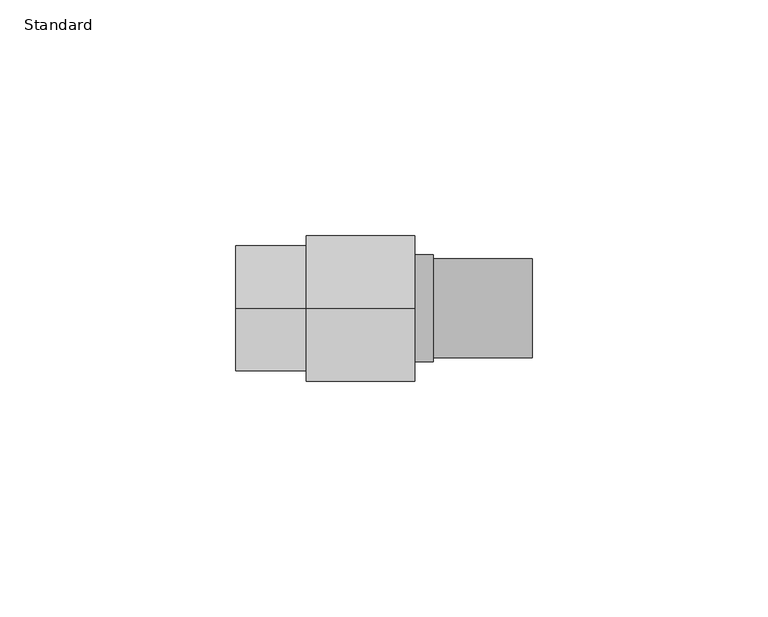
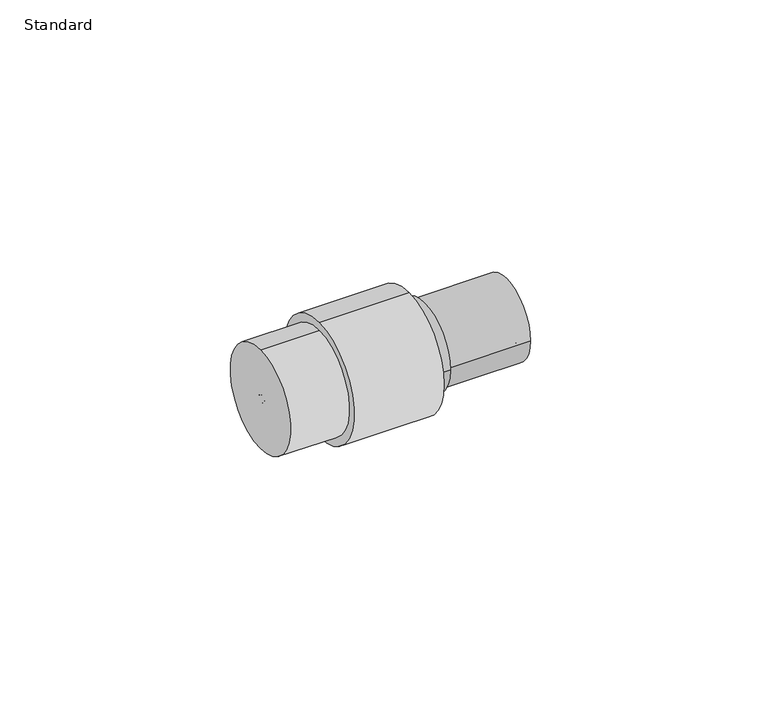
"""IFC4 building model written with IfcOpenShell, lengths in millimetres: pipe fitting geometry, Z_PIF_Tigris_Transition_M-K_MMT_Wavin_(nested) : Standard."""

from ifc_helpers import new_model, si_unit, point, frame, origin, origin_2d, place, context, project, spatial, circle_curve, ellipse_curve, trimmed, segment, composite_curve, outline, extrude, source, transform, mapped, element, save
from ifc_brep_helpers import plane_surface, revolved_surface, advanced_brep


def standard_a49c3ffd(model_context):
    return source(origin(), model_context, "Body", "SolidModel", [
        extrude(outline(composite_curve([segment(trimmed(circle_curve(origin_2d(), 13.35), [point((0.0, -13.35))], [point((0.0, 13.35))], False, "CARTESIAN"), True, "CONTINUOUS"), segment(trimmed(circle_curve(origin_2d(), 13.35), [point((0.0, 13.35))], [point((0.0, -13.35))], False, "CARTESIAN"), True, "CONTINUOUS")], self_intersect=False)), frame((-19.0, 0.0, 0.0), z_axis=(1.0, 0.0, 0.0), x_axis=(0.0, 1.0, 0.0)), (0.0, 0.0, 1.0), 15.0),
        extrude(outline(composite_curve([segment(trimmed(circle_curve(origin_2d(), 15.5), [point((0.0, -15.5))], [point((0.0, 15.5))], False, "CARTESIAN"), True, "CONTINUOUS"), segment(trimmed(circle_curve(origin_2d(), 15.5), [point((0.0, 15.5))], [point((0.0, -15.5))], False, "CARTESIAN"), True, "CONTINUOUS")], self_intersect=False)), frame((-4.0, 0.0, 0.0), z_axis=(1.0, 0.0, 0.0), x_axis=(0.0, 1.0, 0.0)), (0.0, 0.0, 1.0), 23.0),
        extrude(outline(composite_curve([segment(trimmed(circle_curve(origin_2d(), 11.35), [point((11.35, 0.0))], [point((-11.35, 0.0))], False, "CARTESIAN"), True, "CONTINUOUS"), segment(trimmed(circle_curve(origin_2d(), 11.35), [point((-11.35, 0.0))], [point((11.35, 0.0))], False, "CARTESIAN"), True, "CONTINUOUS")], self_intersect=False)), frame((18.0, 0.0, 0.0), z_axis=(1.0, 0.0, 0.0), x_axis=(0.0, 1.0, 0.0)), (0.0, 0.0, 1.0), 5.0),
        extrude(outline(composite_curve([segment(trimmed(circle_curve(origin_2d(), 10.5), [point((10.5, 0.0))], [point((-10.5, 0.0))], False, "CARTESIAN"), True, "CONTINUOUS"), segment(trimmed(circle_curve(origin_2d(), 10.5), [point((-10.5, 0.0))], [point((10.5, 0.0))], False, "CARTESIAN"), True, "CONTINUOUS")], self_intersect=False), holes=[composite_curve([segment(trimmed(circle_curve(origin_2d(), 8.2), [point((8.2, 0.0))], [point((-8.2, 0.0))], True, "CARTESIAN"), True, "CONTINUOUS"), segment(trimmed(circle_curve(origin_2d(), 8.2), [point((-8.2, 0.0))], [point((8.2, 0.0))], True, "CARTESIAN"), True, "CONTINUOUS")], self_intersect=False)]), frame((23.0, 0.0, 0.0), z_axis=(1.0, 0.0, 0.0), x_axis=(0.0, 1.0, 0.0)), (0.0, 0.0, 1.0), 21.0),
        extrude(outline(composite_curve([segment(trimmed(circle_curve(origin_2d(), 6.1), [point((6.1, 0.0))], [point((-6.1, 0.0))], False, "CARTESIAN"), True, "CONTINUOUS"), segment(trimmed(circle_curve(origin_2d(), 6.1), [point((-6.1, 0.0))], [point((6.1, 0.0))], False, "CARTESIAN"), True, "CONTINUOUS")], self_intersect=False), holes=[composite_curve([segment(trimmed(circle_curve(origin_2d(), 4.0), [point((4.0, 0.0))], [point((-4.0, 0.0))], True, "CARTESIAN"), True, "CONTINUOUS"), segment(trimmed(circle_curve(origin_2d(), 4.0), [point((-4.0, 0.0))], [point((4.0, 0.0))], True, "CARTESIAN"), True, "CONTINUOUS")], self_intersect=False)]), frame((19.0, 0.0, 0.0), z_axis=(1.0, 0.0, 0.0), x_axis=(0.0, 1.0, 0.0)), (0.0, 0.0, 1.0), 25.0),
        advanced_brep(
        [(-19.0, 0.0, 0.0), (-19.0, 1.0, 0.0), (-19.0, -1.0, 0.0), (-18.0, 0.0, 0.0)],
        [
            (0, 1),
            (1, 2, circle_curve(frame((-19.0, 0.0, 0.0), z_axis=(-1.0, 0.0, 0.0), x_axis=(0.0, 1.0, 0.0)), 1.0)),
            (2, 0),
            (2, 1, circle_curve(frame((-19.0, 0.0, 0.0), z_axis=(-1.0, 0.0, 0.0), x_axis=(0.0, 1.0, 0.0)), 1.0)),
            (1, 3, circle_curve(frame((-19.0, 0.0, 0.0), z_axis=(0.0, 0.0, -1.0), x_axis=(1.0, 0.0, 0.0)), 1.0)),
            (3, 2, circle_curve(frame((-19.0, 0.0, 0.0), z_axis=(0.0, 0.0, -1.0), x_axis=(1.0, 0.0, 0.0)), 1.0)),
        ],
        [
            plane_surface(frame((-19.0, 0.0, 0.0), z_axis=(-1.0, 0.0, 0.0), x_axis=(0.0, 1.0, 0.0))),
            revolved_surface(trimmed(ellipse_curve(frame((-19.0, 0.0, 0.0), z_axis=(0.0, 0.0, 1.0), x_axis=(1.0, 0.0, 0.0)), 1.0, 1.0), [point((-18.0, 0.0, 0.0))], [point((-19.0, 1.0, 0.0))], True, "CARTESIAN"), (2003.5, 0.0, 0.0), (-1.0, 0.0, 0.0)),
        ],
        [
            (0, [[1, 2, 3]]),
            (0, [[-3, 4, -1]]),
            (1, [[-2, 5, 6]]),
            (1, [[-4, -6, -5]]),
        ],
    ),
    ])


if __name__ == "__main__":
    model = new_model("IFC4")
    model_context = context("Model", 3, world=origin())
    ifc_project = project(units=[si_unit("LENGTHUNIT", "METRE", prefix="MILLI")], contexts=[model_context])
    site = spatial("IfcSite", under=ifc_project)
    building = spatial("IfcBuilding", under=site)
    placement = place(None, origin())
    standard_shape = standard_a49c3ffd(model_context)
    element("IfcPipeFitting", 1, ObjectType="Z_PIF_Tigris_Transition_M-K_MMT_Wavin_(nested) : Standard", at=placement, inside=building, context=model_context, shape_type="MappedRepresentation", body=[
        mapped(standard_shape, transform((0.0, 0.0, 0.0), x_axis=(1.0, 0.0, 0.0), y_axis=(0.0, 1.0, 0.0), z_axis=(0.0, 0.0, 1.0))),
    ])
    save(model, "model.ifc")
